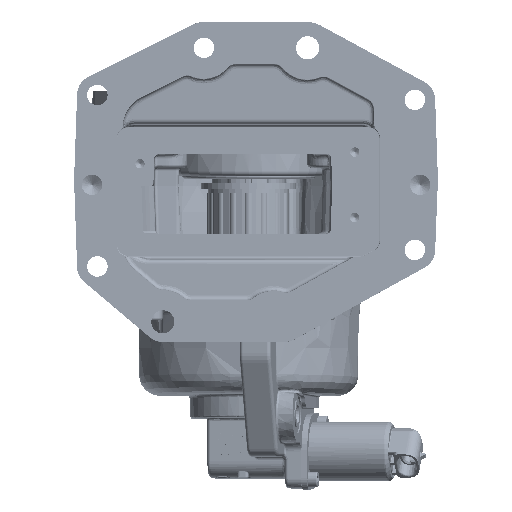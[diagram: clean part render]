
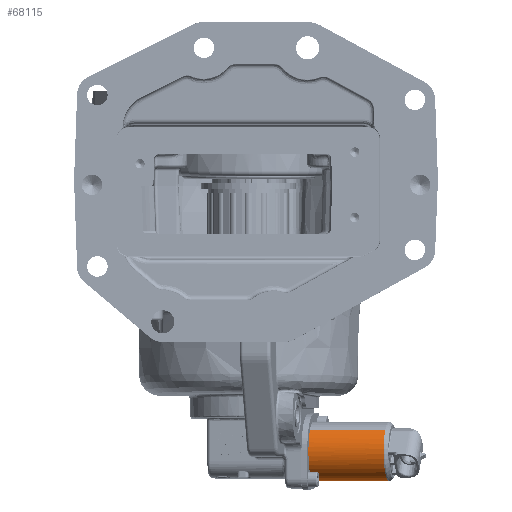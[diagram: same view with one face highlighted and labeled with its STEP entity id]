
A CAD part, front view. The second image highlights one B-rep face of the part: STEP entity #68115.
In plain terms, the highlighted cylindrical face has radius 16.125 mm (diameter 32.25 mm), a partial arc.
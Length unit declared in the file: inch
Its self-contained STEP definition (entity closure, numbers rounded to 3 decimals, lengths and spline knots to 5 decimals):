
#191 = CIRCLE ( 'NONE', #97562, 0.63484 ) ;
#1488 = CYLINDRICAL_SURFACE ( 'NONE', #140940, 0.63484 ) ;
#6415 = DIRECTION ( 'NONE',  ( 0., 1., 0. ) ) ;
#6586 = EDGE_CURVE ( 'NONE', #107601, #171541, #41522, .T. ) ;
#10476 = VERTEX_POINT ( 'NONE', #28066 ) ;
#12862 = CARTESIAN_POINT ( 'NONE',  ( 0., -0.54112, 0.63484 ) ) ;
#23706 = LINE ( 'NONE', #52227, #49646 ) ;
#26429 = EDGE_CURVE ( 'NONE', #101557, #10476, #86014, .T. ) ;
#27872 = ORIENTED_EDGE ( 'NONE', *, *, #26429, .T. ) ;
#28025 = DIRECTION ( 'NONE',  ( 0., 1., 0. ) ) ;
#28066 = CARTESIAN_POINT ( 'NONE',  ( 0.63483, 0.125, -0.00412 ) ) ;
#29017 = FACE_OUTER_BOUND ( 'NONE', #119378, .T. ) ;
#38155 = AXIS2_PLACEMENT_3D ( 'NONE', #91629, #62087, #44878 ) ;
#39634 = ORIENTED_EDGE ( 'NONE', *, *, #47987, .F. ) ;
#41522 = CIRCLE ( 'NONE', #38155, 0.63484 ) ;
#44878 = DIRECTION ( 'NONE',  ( 0., 0., 1. ) ) ;
#47987 = EDGE_CURVE ( 'NONE', #101557, #171541, #121667, .T. ) ;
#49646 = VECTOR ( 'NONE', #6415, 39.37008 ) ;
#52227 = CARTESIAN_POINT ( 'NONE',  ( 0., -0.54112, -0.63484 ) ) ;
#58641 = DIRECTION ( 'NONE',  ( 0., 1., 0. ) ) ;
#60545 = CARTESIAN_POINT ( 'NONE',  ( 0., -0.54112, 0. ) ) ;
#62087 = DIRECTION ( 'NONE',  ( 0., -1., 0. ) ) ;
#68115 = ADVANCED_FACE ( 'NONE', ( #29017 ), #1488, .T. ) ;
#72963 = DIRECTION ( 'NONE',  ( 0., 1., 0. ) ) ;
#84990 = CARTESIAN_POINT ( 'NONE',  ( 0., 0.125, 0. ) ) ;
#86014 = CIRCLE ( 'NONE', #180359, 0.63484 ) ;
#90579 = CARTESIAN_POINT ( 'NONE',  ( 0., 1.85247, -0.63484 ) ) ;
#91629 = CARTESIAN_POINT ( 'NONE',  ( 0., 1.85247, 0. ) ) ;
#97541 = VECTOR ( 'NONE', #58641, 39.37008 ) ;
#97562 = AXIS2_PLACEMENT_3D ( 'NONE', #84990, #113494, #163347 ) ;
#100022 = ORIENTED_EDGE ( 'NONE', *, *, #144618, .T. ) ;
#101557 = VERTEX_POINT ( 'NONE', #152567 ) ;
#107601 = VERTEX_POINT ( 'NONE', #90579 ) ;
#111580 = ORIENTED_EDGE ( 'NONE', *, *, #6586, .T. ) ;
#113494 = DIRECTION ( 'NONE',  ( 0., 1., 0. ) ) ;
#116668 = VERTEX_POINT ( 'NONE', #185429 ) ;
#119378 = EDGE_LOOP ( 'NONE', ( #27872, #154110, #100022, #111580, #39634 ) ) ;
#121667 = LINE ( 'NONE', #12862, #97541 ) ;
#140940 = AXIS2_PLACEMENT_3D ( 'NONE', #60545, #28025, #167410 ) ;
#144618 = EDGE_CURVE ( 'NONE', #116668, #107601, #23706, .T. ) ;
#147263 = DIRECTION ( 'NONE',  ( 0., 0., 1. ) ) ;
#152567 = CARTESIAN_POINT ( 'NONE',  ( 0., 0.125, 0.63484 ) ) ;
#154110 = ORIENTED_EDGE ( 'NONE', *, *, #195754, .T. ) ;
#163347 = DIRECTION ( 'NONE',  ( 0., 0., 1. ) ) ;
#167410 = DIRECTION ( 'NONE',  ( 0., 0., 1. ) ) ;
#171541 = VERTEX_POINT ( 'NONE', #187210 ) ;
#180359 = AXIS2_PLACEMENT_3D ( 'NONE', #194109, #72963, #147263 ) ;
#185429 = CARTESIAN_POINT ( 'NONE',  ( 0., 0.125, -0.63484 ) ) ;
#187210 = CARTESIAN_POINT ( 'NONE',  ( 0., 1.85247, 0.63484 ) ) ;
#194109 = CARTESIAN_POINT ( 'NONE',  ( 0., 0.125, 0. ) ) ;
#195754 = EDGE_CURVE ( 'NONE', #10476, #116668, #191, .T. ) ;
